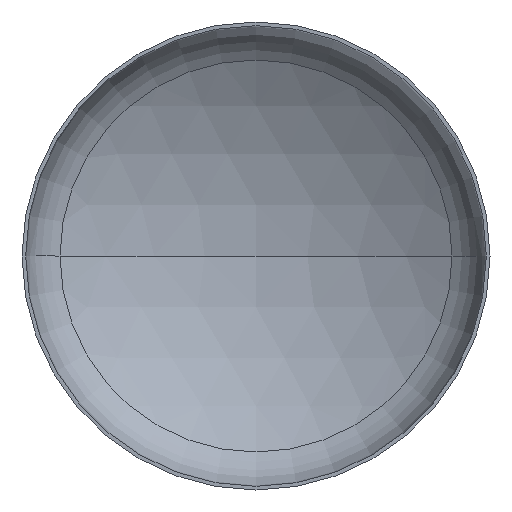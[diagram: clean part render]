
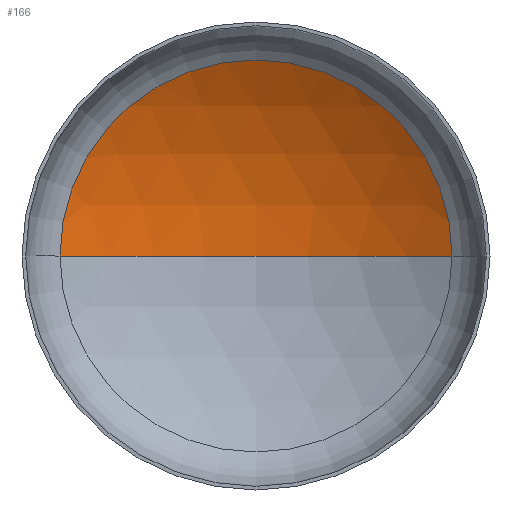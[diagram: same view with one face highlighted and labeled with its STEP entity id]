
A CAD part, front view. The second image highlights one B-rep face of the part: STEP entity #166.
In plain terms, the highlighted spherical face has radius 3040 mm.
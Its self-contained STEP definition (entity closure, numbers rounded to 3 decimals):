
#2 = AXIS2_PLACEMENT_3D ( 'NONE', #322, #332, #38 ) ;
#21 = ORIENTED_EDGE ( 'NONE', *, *, #143, .T. ) ;
#38 = DIRECTION ( 'NONE',  ( 1., 0., 0. ) ) ;
#39 = AXIS2_PLACEMENT_3D ( 'NONE', #182, #248, #309 ) ;
#45 = AXIS2_PLACEMENT_3D ( 'NONE', #394, #268, #80 ) ;
#50 = AXIS2_PLACEMENT_3D ( 'NONE', #208, #374, #235 ) ;
#63 = ORIENTED_EDGE ( 'NONE', *, *, #152, .T. ) ;
#73 = EDGE_LOOP ( 'NONE', ( #162, #63, #21 ) ) ;
#80 = DIRECTION ( 'NONE',  ( -1., 0., 0. ) ) ;
#94 = CIRCLE ( 'NONE', #50, 1591.202 ) ;
#137 = VERTEX_POINT ( 'NONE', #345 ) ;
#143 = EDGE_CURVE ( 'NONE', #155, #137, #94, .T. ) ;
#147 = VERTEX_POINT ( 'NONE', #317 ) ;
#152 = EDGE_CURVE ( 'NONE', #147, #155, #250, .T. ) ;
#155 = VERTEX_POINT ( 'NONE', #227 ) ;
#162 = ORIENTED_EDGE ( 'NONE', *, *, #338, .F. ) ;
#166 = ADVANCED_FACE ( 'NONE', ( #308 ), #258, .F. ) ;
#182 = CARTESIAN_POINT ( 'NONE',  ( 0., -2001.841, 0. ) ) ;
#208 = CARTESIAN_POINT ( 'NONE',  ( 0., 588.463, 0. ) ) ;
#227 = CARTESIAN_POINT ( 'NONE',  ( 1591.202, 588.463, 0. ) ) ;
#235 = DIRECTION ( 'NONE',  ( 1., 0., 0. ) ) ;
#248 = DIRECTION ( 'NONE',  ( 0., 0., -1. ) ) ;
#250 = CIRCLE ( 'NONE', #45, 3040. ) ;
#258 = SPHERICAL_SURFACE ( 'NONE', #39, 3040. ) ;
#268 = DIRECTION ( 'NONE',  ( 0., 0., -1. ) ) ;
#284 = CIRCLE ( 'NONE', #2, 3040. ) ;
#308 = FACE_OUTER_BOUND ( 'NONE', #73, .T. ) ;
#309 = DIRECTION ( 'NONE',  ( -1., 0., 0. ) ) ;
#317 = CARTESIAN_POINT ( 'NONE',  ( 0., 1038.159, 0. ) ) ;
#322 = CARTESIAN_POINT ( 'NONE',  ( 0., -2001.841, 0. ) ) ;
#332 = DIRECTION ( 'NONE',  ( 0., 0., 1. ) ) ;
#338 = EDGE_CURVE ( 'NONE', #147, #137, #284, .T. ) ;
#345 = CARTESIAN_POINT ( 'NONE',  ( -1591.202, 588.463, 0. ) ) ;
#374 = DIRECTION ( 'NONE',  ( 0., -1., 0. ) ) ;
#394 = CARTESIAN_POINT ( 'NONE',  ( 0., -2001.841, 0. ) ) ;
